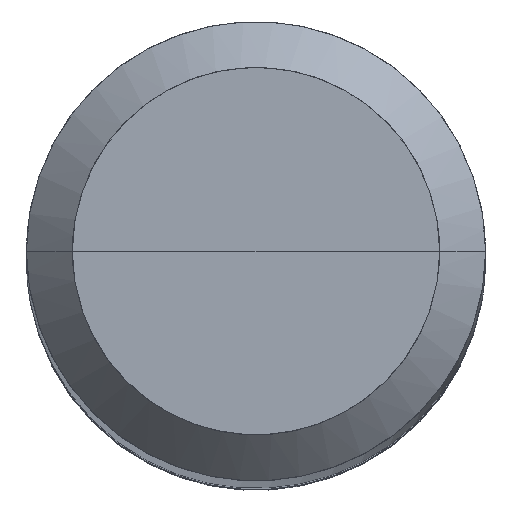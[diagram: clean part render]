
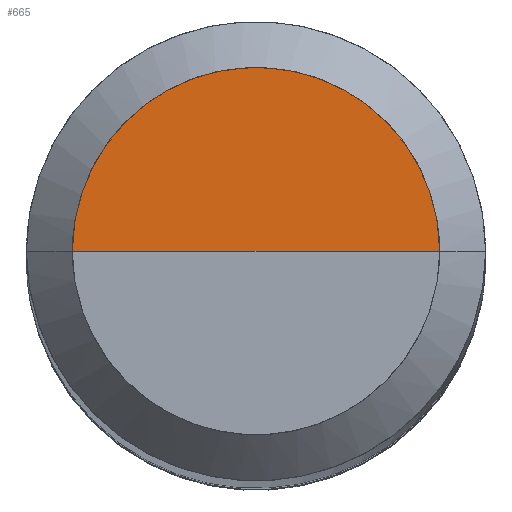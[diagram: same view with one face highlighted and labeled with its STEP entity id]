
A CAD part, top view. The second image highlights one B-rep face of the part: STEP entity #665.
In plain terms, the highlighted free-form (B-spline) face has degree [1, 2] with [2, 5] control points.
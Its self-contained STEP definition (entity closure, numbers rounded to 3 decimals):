
#420=CARTESIAN_POINT('',(4.8,0.0,108.134));
#421=CARTESIAN_POINT('',(4.8,4.8,108.134));
#422=CARTESIAN_POINT('',(0.0,4.8,108.134));
#423=CARTESIAN_POINT('',(-4.8,4.8,108.134));
#424=CARTESIAN_POINT('',(-4.8,0.0,108.134));
#425=CARTESIAN_POINT('',(0.0,0.0,108.134));
#650=(
BOUNDED_SURFACE()
B_SPLINE_SURFACE(1,2,(
(#420,#421,#422,#423,#424),
(#425,#425,#425,#425,#425)
), .UNSPECIFIED.,.F.,.F.,.F.)
B_SPLINE_SURFACE_WITH_KNOTS((2,2),(3,2,3),(
0.0,1.0),(
0.0,0.5,1.0), .UNSPECIFIED.)
GEOMETRIC_REPRESENTATION_ITEM()
RATIONAL_B_SPLINE_SURFACE(((1.0,0.707,1.0,0.707,1.0),
(1.0,0.707,1.0,0.707,1.0)
))
REPRESENTATION_ITEM('')
SURFACE()
);
#651=(
BOUNDED_CURVE()
B_SPLINE_CURVE(2,(#424,#423,#422,#421,#420),.UNSPECIFIED.,.F.,.F.)
B_SPLINE_CURVE_WITH_KNOTS((3,2,3),
(0.0,0.5,1.0),.UNSPECIFIED.)
CURVE()
GEOMETRIC_REPRESENTATION_ITEM()
RATIONAL_B_SPLINE_CURVE((1.0,0.707,1.0,0.707,1.0))
REPRESENTATION_ITEM('')
);
#652=(
BOUNDED_CURVE()
B_SPLINE_CURVE(1,(#420,#425),.UNSPECIFIED.,.F.,.F.)
B_SPLINE_CURVE_WITH_KNOTS((2,2),
(0.0,1.0),.UNSPECIFIED.)
CURVE()
GEOMETRIC_REPRESENTATION_ITEM()
RATIONAL_B_SPLINE_CURVE((1.0,1.0))
REPRESENTATION_ITEM('')
);
#653=(
BOUNDED_CURVE()
B_SPLINE_CURVE(1,(#425,#424),.UNSPECIFIED.,.F.,.F.)
B_SPLINE_CURVE_WITH_KNOTS((2,2),
(0.0,1.0),.UNSPECIFIED.)
CURVE()
GEOMETRIC_REPRESENTATION_ITEM()
RATIONAL_B_SPLINE_CURVE((1.0,1.0))
REPRESENTATION_ITEM('')
);
#654=VERTEX_POINT('',#420);
#655=VERTEX_POINT('',#424);
#656=VERTEX_POINT('',#425);
#657=EDGE_CURVE('',#655,#654,#651,.T.);
#658=EDGE_CURVE('',#654,#656,#652,.T.);
#659=EDGE_CURVE('',#656,#655,#653,.T.);
#660=ORIENTED_EDGE('',*,*,#657,.T.);
#661=ORIENTED_EDGE('',*,*,#658,.T.);
#662=ORIENTED_EDGE('',*,*,#659,.T.);
#663=EDGE_LOOP('',(#660,#661,#662));
#664=FACE_OUTER_BOUND('',#663,.T.);
#665=ADVANCED_FACE('',(#664),#650,.T.);
